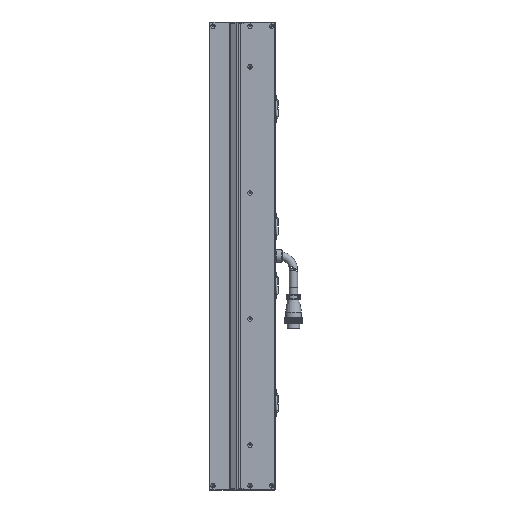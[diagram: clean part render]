
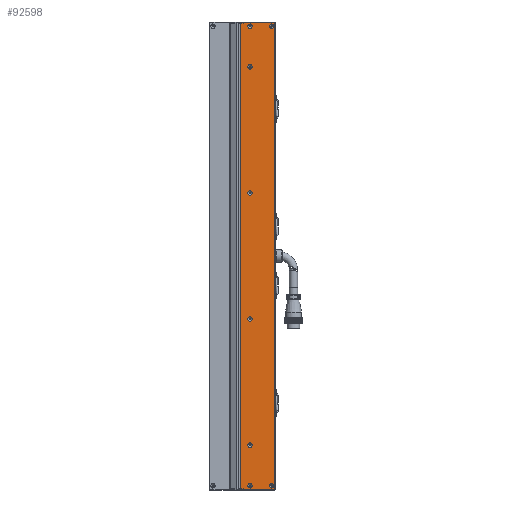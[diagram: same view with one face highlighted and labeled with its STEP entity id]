
A CAD part, left-side view. The second image highlights one B-rep face of the part: STEP entity #92598.
In plain terms, the highlighted planar face has unit normal (-1, 0, 0).
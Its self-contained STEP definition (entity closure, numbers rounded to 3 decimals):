
#1025 = EDGE_LOOP ( 'NONE', ( #50822 ) ) ;
#1180 = VERTEX_POINT ( 'NONE', #36939 ) ;
#1691 = ORIENTED_EDGE ( 'NONE', *, *, #30339, .F. ) ;
#1893 = EDGE_CURVE ( 'NONE', #65900, #76539, #42918, .T. ) ;
#2124 = DIRECTION ( 'NONE',  ( 0., 0., -1. ) ) ;
#2674 = FACE_BOUND ( 'NONE', #87708, .T. ) ;
#3084 = DIRECTION ( 'NONE',  ( 0., -1., 0. ) ) ;
#3489 = DIRECTION ( 'NONE',  ( 0., 0., -1. ) ) ;
#3552 = DIRECTION ( 'NONE',  ( 0., 0., 1. ) ) ;
#4317 = VECTOR ( 'NONE', #26607, 1000. ) ;
#5555 = CARTESIAN_POINT ( 'NONE',  ( -24.998, -26.5, 332. ) ) ;
#6459 = FACE_BOUND ( 'NONE', #1025, .T. ) ;
#6987 = ORIENTED_EDGE ( 'NONE', *, *, #56632, .T. ) ;
#7297 = DIRECTION ( 'NONE',  ( -1., 0., 0. ) ) ;
#8053 = VERTEX_POINT ( 'NONE', #71003 ) ;
#8236 = CIRCLE ( 'NONE', #41213, 3.15 ) ;
#9675 = DIRECTION ( 'NONE',  ( 1., 0., 0. ) ) ;
#9910 = EDGE_LOOP ( 'NONE', ( #40434, #38577, #103344, #93643, #6987, #34045, #1691, #90970 ) ) ;
#10097 = VERTEX_POINT ( 'NONE', #76424 ) ;
#11649 = AXIS2_PLACEMENT_3D ( 'NONE', #66481, #81642, #58063 ) ;
#12074 = DIRECTION ( 'NONE',  ( -1., 0., 0. ) ) ;
#16973 = CARTESIAN_POINT ( 'NONE',  ( -24.998, -23.25, -332. ) ) ;
#17180 = CARTESIAN_POINT ( 'NONE',  ( -24.998, -72.5, 332. ) ) ;
#17571 = CARTESIAN_POINT ( 'NONE',  ( -24.998, -26.5, -325. ) ) ;
#17664 = FACE_OUTER_BOUND ( 'NONE', #9910, .T. ) ;
#18254 = DIRECTION ( 'NONE',  ( 0., 0., 1. ) ) ;
#18395 = AXIS2_PLACEMENT_3D ( 'NONE', #74038, #89482, #72967 ) ;
#18675 = CARTESIAN_POINT ( 'NONE',  ( -24.998, -26.5, -332. ) ) ;
#19669 = CARTESIAN_POINT ( 'NONE',  ( -24.998, -36.5, -328. ) ) ;
#19928 = AXIS2_PLACEMENT_3D ( 'NONE', #27878, #12074, #100599 ) ;
#19968 = VECTOR ( 'NONE', #60499, 1000. ) ;
#20591 = VERTEX_POINT ( 'NONE', #56246 ) ;
#20956 = EDGE_CURVE ( 'NONE', #76539, #8053, #58432, .T. ) ;
#21499 = FACE_BOUND ( 'NONE', #81555, .T. ) ;
#22082 = CARTESIAN_POINT ( 'NONE',  ( -24.998, -23.25, 332. ) ) ;
#22607 = CARTESIAN_POINT ( 'NONE',  ( -24.998, -36.5, -86.85 ) ) ;
#22718 = FACE_BOUND ( 'NONE', #60724, .T. ) ;
#24790 = VECTOR ( 'NONE', #3084, 1000. ) ;
#24977 = ORIENTED_EDGE ( 'NONE', *, *, #72050, .F. ) ;
#25263 = EDGE_LOOP ( 'NONE', ( #52408 ) ) ;
#25477 = CARTESIAN_POINT ( 'NONE',  ( -24.998, -67.5, 331.15 ) ) ;
#26607 = DIRECTION ( 'NONE',  ( 0., 1., 0. ) ) ;
#26960 = CARTESIAN_POINT ( 'NONE',  ( -24.998, -72.5, 333.5 ) ) ;
#27229 = EDGE_CURVE ( 'NONE', #20591, #32145, #70348, .T. ) ;
#27769 = DIRECTION ( 'NONE',  ( -1., 0., 0. ) ) ;
#27796 = VERTEX_POINT ( 'NONE', #57144 ) ;
#27878 = CARTESIAN_POINT ( 'NONE',  ( -24.998, -67.5, -328. ) ) ;
#28603 = LINE ( 'NONE', #17180, #33667 ) ;
#28629 = CARTESIAN_POINT ( 'NONE',  ( -24.998, -36.5, -266.85 ) ) ;
#28969 = CARTESIAN_POINT ( 'NONE',  ( -24.998, -36.5, -324.85 ) ) ;
#30339 = EDGE_CURVE ( 'NONE', #101155, #32145, #28603, .T. ) ;
#31493 = DIRECTION ( 'NONE',  ( 0., 0., 1. ) ) ;
#31793 = CARTESIAN_POINT ( 'NONE',  ( -24.998, -72.5, -332. ) ) ;
#32145 = VERTEX_POINT ( 'NONE', #5555 ) ;
#32217 = EDGE_LOOP ( 'NONE', ( #89657 ) ) ;
#32549 = EDGE_CURVE ( 'NONE', #27796, #27796, #61665, .T. ) ;
#33667 = VECTOR ( 'NONE', #40431, 1000. ) ;
#33911 = PLANE ( 'NONE',  #44516 ) ;
#34045 = ORIENTED_EDGE ( 'NONE', *, *, #27229, .T. ) ;
#34376 = CARTESIAN_POINT ( 'NONE',  ( -24.998, -72.5, -333.5 ) ) ;
#35185 = VERTEX_POINT ( 'NONE', #28969 ) ;
#35413 = EDGE_CURVE ( 'NONE', #65900, #101155, #61434, .T. ) ;
#36228 = DIRECTION ( 'NONE',  ( 0., 0., 1. ) ) ;
#36555 = VERTEX_POINT ( 'NONE', #25477 ) ;
#36939 = CARTESIAN_POINT ( 'NONE',  ( -24.998, -72., 333.5 ) ) ;
#38577 = ORIENTED_EDGE ( 'NONE', *, *, #20956, .T. ) ;
#39149 = DIRECTION ( 'NONE',  ( 0., -1., 0. ) ) ;
#40431 = DIRECTION ( 'NONE',  ( 0., -1., 0. ) ) ;
#40434 = ORIENTED_EDGE ( 'NONE', *, *, #1893, .T. ) ;
#40982 = EDGE_CURVE ( 'NONE', #36555, #36555, #46072, .T. ) ;
#41213 = AXIS2_PLACEMENT_3D ( 'NONE', #50987, #99131, #36228 ) ;
#41398 = ORIENTED_EDGE ( 'NONE', *, *, #47615, .F. ) ;
#42863 = DIRECTION ( 'NONE',  ( 0., 0., 1. ) ) ;
#42918 = LINE ( 'NONE', #31793, #56691 ) ;
#44376 = CARTESIAN_POINT ( 'NONE',  ( -24.998, -23.25, -332. ) ) ;
#44516 = AXIS2_PLACEMENT_3D ( 'NONE', #58472, #9675, #90104 ) ;
#46072 = CIRCLE ( 'NONE', #66098, 3.15 ) ;
#47615 = EDGE_CURVE ( 'NONE', #92865, #92865, #96990, .T. ) ;
#48981 = VECTOR ( 'NONE', #3489, 1000. ) ;
#49153 = CARTESIAN_POINT ( 'NONE',  ( -24.998, -72., -333.5 ) ) ;
#50822 = ORIENTED_EDGE ( 'NONE', *, *, #90100, .F. ) ;
#50987 = CARTESIAN_POINT ( 'NONE',  ( -24.998, -36.5, 270. ) ) ;
#51357 = LINE ( 'NONE', #34376, #24790 ) ;
#51653 = DIRECTION ( 'NONE',  ( -1., 0., 0. ) ) ;
#51674 = DIRECTION ( 'NONE',  ( 0., 0., 1. ) ) ;
#52280 = CARTESIAN_POINT ( 'NONE',  ( -24.998, -26.5, 325. ) ) ;
#52408 = ORIENTED_EDGE ( 'NONE', *, *, #54878, .F. ) ;
#53952 = VERTEX_POINT ( 'NONE', #22607 ) ;
#54513 = AXIS2_PLACEMENT_3D ( 'NONE', #66055, #27769, #51674 ) ;
#54878 = EDGE_CURVE ( 'NONE', #60394, #60394, #8236, .T. ) ;
#55906 = VECTOR ( 'NONE', #2124, 1000. ) ;
#56246 = CARTESIAN_POINT ( 'NONE',  ( -24.998, -26.5, 333.5 ) ) ;
#56572 = VERTEX_POINT ( 'NONE', #28629 ) ;
#56632 = EDGE_CURVE ( 'NONE', #1180, #20591, #67186, .T. ) ;
#56691 = VECTOR ( 'NONE', #39149, 1000. ) ;
#57144 = CARTESIAN_POINT ( 'NONE',  ( -24.998, -67.5, -324.85 ) ) ;
#58063 = DIRECTION ( 'NONE',  ( 0., 0., 1. ) ) ;
#58432 = LINE ( 'NONE', #17571, #55906 ) ;
#58472 = CARTESIAN_POINT ( 'NONE',  ( -24.998, -72.5, 332. ) ) ;
#59911 = CARTESIAN_POINT ( 'NONE',  ( -24.998, -36.5, 93.15 ) ) ;
#60394 = VERTEX_POINT ( 'NONE', #76071 ) ;
#60499 = DIRECTION ( 'NONE',  ( 0., 0., 1. ) ) ;
#60724 = EDGE_LOOP ( 'NONE', ( #71589 ) ) ;
#61434 = LINE ( 'NONE', #44376, #19968 ) ;
#61665 = CIRCLE ( 'NONE', #19928, 3.15 ) ;
#62955 = FACE_BOUND ( 'NONE', #32217, .T. ) ;
#64577 = CARTESIAN_POINT ( 'NONE',  ( -24.998, -72., 332. ) ) ;
#65900 = VERTEX_POINT ( 'NONE', #16973 ) ;
#66055 = CARTESIAN_POINT ( 'NONE',  ( -24.998, -36.5, -90. ) ) ;
#66098 = AXIS2_PLACEMENT_3D ( 'NONE', #81908, #90313, #18254 ) ;
#66473 = AXIS2_PLACEMENT_3D ( 'NONE', #19669, #51653, #3552 ) ;
#66481 = CARTESIAN_POINT ( 'NONE',  ( -24.998, -36.5, -270. ) ) ;
#66636 = CIRCLE ( 'NONE', #11649, 3.15 ) ;
#67186 = LINE ( 'NONE', #26960, #4317 ) ;
#69375 = EDGE_CURVE ( 'NONE', #10097, #10097, #78261, .T. ) ;
#70348 = LINE ( 'NONE', #52280, #48981 ) ;
#71003 = CARTESIAN_POINT ( 'NONE',  ( -24.998, -26.5, -333.5 ) ) ;
#71589 = ORIENTED_EDGE ( 'NONE', *, *, #69375, .F. ) ;
#72050 = EDGE_CURVE ( 'NONE', #56572, #56572, #66636, .T. ) ;
#72967 = DIRECTION ( 'NONE',  ( 0., 0., 1. ) ) ;
#74038 = CARTESIAN_POINT ( 'NONE',  ( -24.998, -36.5, 328. ) ) ;
#74050 = EDGE_CURVE ( 'NONE', #35185, #35185, #89057, .T. ) ;
#74387 = LINE ( 'NONE', #64577, #99480 ) ;
#75755 = EDGE_CURVE ( 'NONE', #8053, #102849, #51357, .T. ) ;
#76071 = CARTESIAN_POINT ( 'NONE',  ( -24.998, -36.5, 273.15 ) ) ;
#76424 = CARTESIAN_POINT ( 'NONE',  ( -24.998, -36.5, 331.15 ) ) ;
#76539 = VERTEX_POINT ( 'NONE', #18675 ) ;
#77469 = ORIENTED_EDGE ( 'NONE', *, *, #40982, .F. ) ;
#78261 = CIRCLE ( 'NONE', #18395, 3.15 ) ;
#81336 = ORIENTED_EDGE ( 'NONE', *, *, #32549, .F. ) ;
#81555 = EDGE_LOOP ( 'NONE', ( #81336 ) ) ;
#81642 = DIRECTION ( 'NONE',  ( -1., 0., 0. ) ) ;
#81908 = CARTESIAN_POINT ( 'NONE',  ( -24.998, -67.5, 328. ) ) ;
#83195 = EDGE_CURVE ( 'NONE', #102849, #1180, #74387, .T. ) ;
#85674 = FACE_BOUND ( 'NONE', #94433, .T. ) ;
#87708 = EDGE_LOOP ( 'NONE', ( #24977 ) ) ;
#88510 = EDGE_LOOP ( 'NONE', ( #41398 ) ) ;
#89057 = CIRCLE ( 'NONE', #66473, 3.15 ) ;
#89482 = DIRECTION ( 'NONE',  ( -1., 0., 0. ) ) ;
#89657 = ORIENTED_EDGE ( 'NONE', *, *, #74050, .F. ) ;
#90100 = EDGE_CURVE ( 'NONE', #53952, #53952, #92531, .T. ) ;
#90104 = DIRECTION ( 'NONE',  ( 0., 0., -1. ) ) ;
#90313 = DIRECTION ( 'NONE',  ( -1., 0., 0. ) ) ;
#90970 = ORIENTED_EDGE ( 'NONE', *, *, #35413, .F. ) ;
#92531 = CIRCLE ( 'NONE', #54513, 3.15 ) ;
#92598 = ADVANCED_FACE ( 'NONE', ( #22718, #2674, #6459, #101969, #94400, #21499, #62955, #17664, #85674 ), #33911, .F. ) ;
#92759 = AXIS2_PLACEMENT_3D ( 'NONE', #95402, #7297, #31493 ) ;
#92865 = VERTEX_POINT ( 'NONE', #59911 ) ;
#93643 = ORIENTED_EDGE ( 'NONE', *, *, #83195, .T. ) ;
#94400 = FACE_BOUND ( 'NONE', #25263, .T. ) ;
#94433 = EDGE_LOOP ( 'NONE', ( #77469 ) ) ;
#95402 = CARTESIAN_POINT ( 'NONE',  ( -24.998, -36.5, 90. ) ) ;
#96990 = CIRCLE ( 'NONE', #92759, 3.15 ) ;
#99131 = DIRECTION ( 'NONE',  ( -1., 0., 0. ) ) ;
#99480 = VECTOR ( 'NONE', #42863, 1000. ) ;
#100599 = DIRECTION ( 'NONE',  ( 0., 0., 1. ) ) ;
#101155 = VERTEX_POINT ( 'NONE', #22082 ) ;
#101969 = FACE_BOUND ( 'NONE', #88510, .T. ) ;
#102849 = VERTEX_POINT ( 'NONE', #49153 ) ;
#103344 = ORIENTED_EDGE ( 'NONE', *, *, #75755, .T. ) ;
